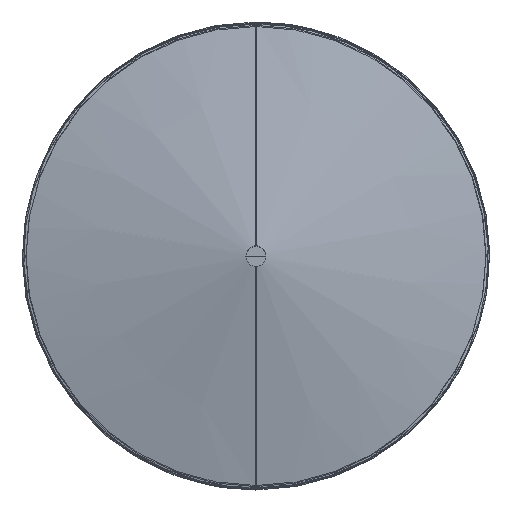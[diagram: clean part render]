
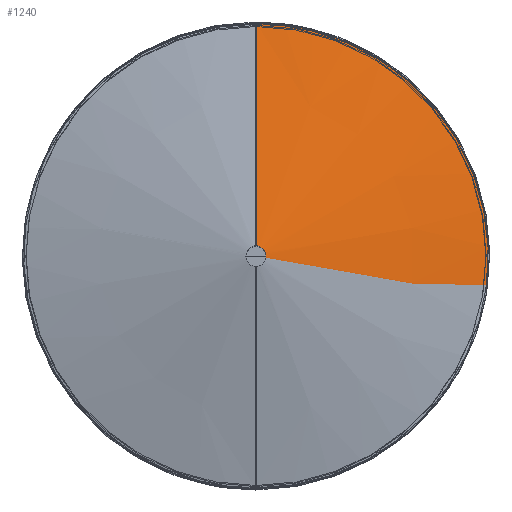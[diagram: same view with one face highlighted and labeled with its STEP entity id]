
A CAD part, top view. The second image highlights one B-rep face of the part: STEP entity #1240.
In plain terms, the highlighted conical face has half-angle 78.221 degrees and reference radius 23.85 mm.
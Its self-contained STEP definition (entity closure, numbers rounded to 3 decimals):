
#101=B_SPLINE_CURVE_WITH_KNOTS('',3,(#2507,#2508,#2509,#2510,#2511,#2512,
#2513,#2514,#2515,#2516,#2517,#2518,#2519,#2520,#2521),.UNSPECIFIED.,.F.,
 .F.,(4,1,1,1,1,1,1,1,1,1,1,1,4),(0.,0.083,0.167,
0.25,0.333,0.417,0.5,0.583,0.667,
0.75,0.833,0.917,1.),.UNSPECIFIED.);
#130=CONICAL_SURFACE('',#1420,23.85,1.365);
#217=FACE_OUTER_BOUND('',#313,.T.);
#313=EDGE_LOOP('',(#1083,#1084,#1085,#1086));
#389=CIRCLE('',#1421,7.147);
#457=LINE('',#2524,#529);
#458=LINE('',#2527,#530);
#529=VECTOR('',#1821,304.8);
#530=VECTOR('',#1824,304.8);
#613=VERTEX_POINT('',#2385);
#614=VERTEX_POINT('',#2438);
#615=VERTEX_POINT('',#2523);
#616=VERTEX_POINT('',#2525);
#770=EDGE_CURVE('',#613,#614,#101,.T.);
#771=EDGE_CURVE('',#615,#613,#457,.T.);
#773=EDGE_CURVE('',#614,#616,#458,.T.);
#774=EDGE_CURVE('',#615,#616,#389,.T.);
#1083=ORIENTED_EDGE('',*,*,#770,.T.);
#1084=ORIENTED_EDGE('',*,*,#773,.T.);
#1085=ORIENTED_EDGE('',*,*,#774,.F.);
#1086=ORIENTED_EDGE('',*,*,#771,.T.);
#1240=ADVANCED_FACE('',(#217),#130,.T.);
#1420=AXIS2_PLACEMENT_3D('',#2528,#1825,#1826);
#1421=AXIS2_PLACEMENT_3D('',#2529,#1827,#1828);
#1821=DIRECTION('',(0.,0.979,-0.204));
#1824=DIRECTION('',(0.,0.979,0.204));
#1825=DIRECTION('center_axis',(0.,0.,-1.));
#1826=DIRECTION('ref_axis',(-0.588,-0.809,0.));
#1827=DIRECTION('center_axis',(0.,0.,1.));
#1828=DIRECTION('ref_axis',(-0.588,-0.809,0.));
#2385=CARTESIAN_POINT('',(0.,174.182,-34.832));
#2438=CARTESIAN_POINT('',(0.,-174.182,-34.832));
#2507=CARTESIAN_POINT('Ctrl Pts',(0.,174.182,
-34.832));
#2508=CARTESIAN_POINT('Ctrl Pts',(-15.213,174.229,-34.832));
#2509=CARTESIAN_POINT('Ctrl Pts',(-45.594,170.158,-34.832));
#2510=CARTESIAN_POINT('Ctrl Pts',(-88.093,152.585,-34.832));
#2511=CARTESIAN_POINT('Ctrl Pts',(-124.58,124.579,-34.832));
#2512=CARTESIAN_POINT('Ctrl Pts',(-152.579,88.092,-34.832));
#2513=CARTESIAN_POINT('Ctrl Pts',(-170.18,45.599,-34.832));
#2514=CARTESIAN_POINT('Ctrl Pts',(-176.183,0.,
-34.832));
#2515=CARTESIAN_POINT('Ctrl Pts',(-170.18,-45.599,-34.832));
#2516=CARTESIAN_POINT('Ctrl Pts',(-152.579,-88.092,-34.832));
#2517=CARTESIAN_POINT('Ctrl Pts',(-124.58,-124.579,-34.832));
#2518=CARTESIAN_POINT('Ctrl Pts',(-88.093,-152.585,-34.832));
#2519=CARTESIAN_POINT('Ctrl Pts',(-45.594,-170.158,-34.832));
#2520=CARTESIAN_POINT('Ctrl Pts',(-15.213,-174.229,-34.832));
#2521=CARTESIAN_POINT('Ctrl Pts',(0.,-174.182,
-34.832));
#2523=CARTESIAN_POINT('',(0.,7.147,0.));
#2524=CARTESIAN_POINT('',(0.,7.147,0.));
#2525=CARTESIAN_POINT('',(0.,-7.147,0.));
#2527=CARTESIAN_POINT('',(0.,-174.182,-34.832));
#2528=CARTESIAN_POINT('Origin',(0.,0.,
-3.483));
#2529=CARTESIAN_POINT('Origin',(0.,0.,
0.));
